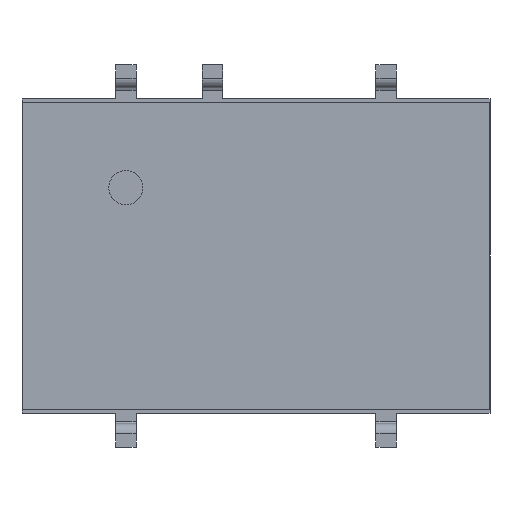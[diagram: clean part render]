
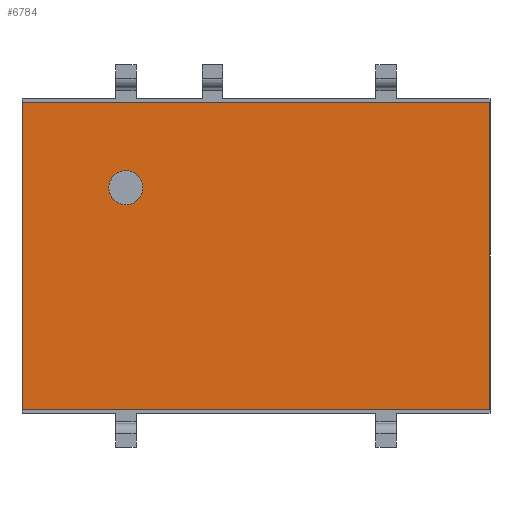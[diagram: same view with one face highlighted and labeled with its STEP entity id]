
A CAD part, front view. The second image highlights one B-rep face of the part: STEP entity #6784.
In plain terms, the highlighted planar face has unit normal (0, -1, 0).
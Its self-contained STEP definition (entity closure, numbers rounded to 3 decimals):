
#35 = VECTOR ( 'NONE', #8679, 1000. ) ;
#532 = CARTESIAN_POINT ( 'NONE',  ( -6.85, -1.4, 4.5 ) ) ;
#652 = ORIENTED_EDGE ( 'NONE', *, *, #2593, .F. ) ;
#716 = DIRECTION ( 'NONE',  ( 0., -1., 0. ) ) ;
#1563 = FACE_BOUND ( 'NONE', #9802, .T. ) ;
#1969 = AXIS2_PLACEMENT_3D ( 'NONE', #11146, #716, #12173 ) ;
#2052 = AXIS2_PLACEMENT_3D ( 'NONE', #532, #2646, #3799 ) ;
#2138 = ORIENTED_EDGE ( 'NONE', *, *, #10530, .F. ) ;
#2593 = EDGE_CURVE ( 'NONE', #4207, #4976, #9883, .T. ) ;
#2646 = DIRECTION ( 'NONE',  ( 0., 1., 0. ) ) ;
#3267 = VECTOR ( 'NONE', #7822, 1000. ) ;
#3440 = CARTESIAN_POINT ( 'NONE',  ( 6.85, -1.4, -4.5 ) ) ;
#3556 = DIRECTION ( 'NONE',  ( -1., 0., 0. ) ) ;
#3672 = CARTESIAN_POINT ( 'NONE',  ( 6.85, -1.4, -4.5 ) ) ;
#3799 = DIRECTION ( 'NONE',  ( 0., 0., 1. ) ) ;
#4207 = VERTEX_POINT ( 'NONE', #6153 ) ;
#4681 = VERTEX_POINT ( 'NONE', #7545 ) ;
#4779 = LINE ( 'NONE', #9967, #5967 ) ;
#4976 = VERTEX_POINT ( 'NONE', #3440 ) ;
#5496 = VERTEX_POINT ( 'NONE', #7486 ) ;
#5550 = LINE ( 'NONE', #9713, #35 ) ;
#5967 = VECTOR ( 'NONE', #3556, 1000. ) ;
#6153 = CARTESIAN_POINT ( 'NONE',  ( 6.85, -1.4, 4.5 ) ) ;
#6784 = ADVANCED_FACE ( 'NONE', ( #1563, #9869 ), #10079, .F. ) ;
#6971 = EDGE_CURVE ( 'NONE', #4976, #4681, #4779, .T. ) ;
#7054 = ORIENTED_EDGE ( 'NONE', *, *, #6971, .F. ) ;
#7486 = CARTESIAN_POINT ( 'NONE',  ( -6.85, -1.4, 4.5 ) ) ;
#7545 = CARTESIAN_POINT ( 'NONE',  ( -6.85, -1.4, -4.5 ) ) ;
#7822 = DIRECTION ( 'NONE',  ( 0., 0., -1. ) ) ;
#7927 = DIRECTION ( 'NONE',  ( 1., 0., 0. ) ) ;
#8679 = DIRECTION ( 'NONE',  ( 0., 0., 1. ) ) ;
#8930 = VECTOR ( 'NONE', #7927, 1000. ) ;
#9713 = CARTESIAN_POINT ( 'NONE',  ( -6.85, -1.4, -4.5 ) ) ;
#9802 = EDGE_LOOP ( 'NONE', ( #2138 ) ) ;
#9869 = FACE_OUTER_BOUND ( 'NONE', #11671, .T. ) ;
#9883 = LINE ( 'NONE', #3672, #3267 ) ;
#9967 = CARTESIAN_POINT ( 'NONE',  ( -6.85, -1.4, -4.5 ) ) ;
#9987 = CARTESIAN_POINT ( 'NONE',  ( -6.85, -1.4, 4.5 ) ) ;
#10079 = PLANE ( 'NONE',  #2052 ) ;
#10082 = ORIENTED_EDGE ( 'NONE', *, *, #10594, .F. ) ;
#10124 = LINE ( 'NONE', #9987, #8930 ) ;
#10530 = EDGE_CURVE ( 'NONE', #12152, #12152, #12215, .T. ) ;
#10594 = EDGE_CURVE ( 'NONE', #5496, #4207, #10124, .T. ) ;
#11146 = CARTESIAN_POINT ( 'NONE',  ( -3.81, -1.4, 2. ) ) ;
#11671 = EDGE_LOOP ( 'NONE', ( #12699, #7054, #652, #10082 ) ) ;
#12013 = CARTESIAN_POINT ( 'NONE',  ( -3.81, -1.4, 1.5 ) ) ;
#12152 = VERTEX_POINT ( 'NONE', #12013 ) ;
#12173 = DIRECTION ( 'NONE',  ( 0., 0., -1. ) ) ;
#12215 = CIRCLE ( 'NONE', #1969, 0.5 ) ;
#12607 = EDGE_CURVE ( 'NONE', #4681, #5496, #5550, .T. ) ;
#12699 = ORIENTED_EDGE ( 'NONE', *, *, #12607, .F. ) ;
